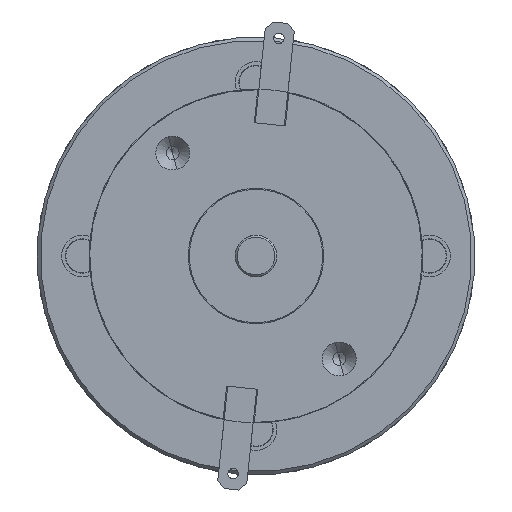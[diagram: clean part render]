
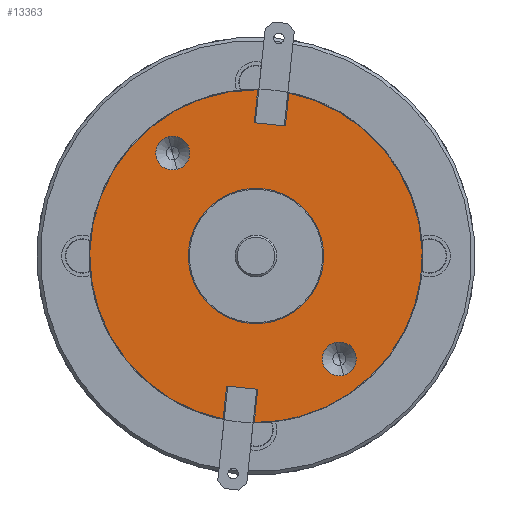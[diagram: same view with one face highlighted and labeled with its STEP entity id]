
A CAD part, left-side view. The second image highlights one B-rep face of the part: STEP entity #13363.
In plain terms, the highlighted planar face has unit normal (-1, 0, 0) as drawn and (1, 0, 0) by its records, which use the part's own axes.
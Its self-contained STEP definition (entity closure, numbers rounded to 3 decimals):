
#22 = EDGE_CURVE ( 'NONE', #15455, #19507, #183, .T. ) ;
#183 = LINE ( 'NONE', #7486, #15529 ) ;
#549 = VERTEX_POINT ( 'NONE', #19037 ) ;
#780 = ORIENTED_EDGE ( 'NONE', *, *, #14690, .F. ) ;
#1062 = VERTEX_POINT ( 'NONE', #24954 ) ;
#1117 = DIRECTION ( 'NONE',  ( 0., 0., 1. ) ) ;
#1390 = DIRECTION ( 'NONE',  ( 0., 0., 1. ) ) ;
#1751 = DIRECTION ( 'NONE',  ( -1., 0., 0. ) ) ;
#1846 = ORIENTED_EDGE ( 'NONE', *, *, #6773, .T. ) ;
#2076 = LINE ( 'NONE', #7467, #22735 ) ;
#2984 = CIRCLE ( 'NONE', #22455, 6.5 ) ;
#3422 = CARTESIAN_POINT ( 'NONE',  ( 82.1, 0., 15.95 ) ) ;
#3461 = ORIENTED_EDGE ( 'NONE', *, *, #17270, .F. ) ;
#3782 = VERTEX_POINT ( 'NONE', #5584 ) ;
#4031 = FACE_BOUND ( 'NONE', #19988, .T. ) ;
#4375 = CARTESIAN_POINT ( 'NONE',  ( 82.1, 5.166, -13.227 ) ) ;
#4650 = ORIENTED_EDGE ( 'NONE', *, *, #6117, .T. ) ;
#4755 = VERTEX_POINT ( 'NONE', #23869 ) ;
#4860 = AXIS2_PLACEMENT_3D ( 'NONE', #19985, #7960, #21999 ) ;
#5102 = EDGE_LOOP ( 'NONE', ( #1846, #15276 ) ) ;
#5323 = CARTESIAN_POINT ( 'NONE',  ( 82.1, 3.449, 4.799 ) ) ;
#5417 = LINE ( 'NONE', #20633, #10087 ) ;
#5484 = DIRECTION ( 'NONE',  ( -1., 0., 0. ) ) ;
#5563 = CARTESIAN_POINT ( 'NONE',  ( 82.1, -3.151, -12.394 ) ) ;
#5584 = CARTESIAN_POINT ( 'NONE',  ( 82.1, -5.166, 13.227 ) ) ;
#5843 = DIRECTION ( 'NONE',  ( -1., 0., 0. ) ) ;
#5950 = ORIENTED_EDGE ( 'NONE', *, *, #8727, .T. ) ;
#6117 = EDGE_CURVE ( 'NONE', #22023, #10438, #19720, .T. ) ;
#6120 = CARTESIAN_POINT ( 'NONE',  ( 82.1, -5.166, 11.602 ) ) ;
#6357 = EDGE_CURVE ( 'NONE', #1062, #3782, #17514, .T. ) ;
#6416 = DIRECTION ( 'NONE',  ( 0., 0., 1. ) ) ;
#6613 = CARTESIAN_POINT ( 'NONE',  ( 82.1, 0., 0. ) ) ;
#6773 = EDGE_CURVE ( 'NONE', #19842, #15697, #15927, .T. ) ;
#7467 = CARTESIAN_POINT ( 'NONE',  ( 82.1, -7.109, -14.334 ) ) ;
#7486 = CARTESIAN_POINT ( 'NONE',  ( 82.1, 0.648, 5.874 ) ) ;
#7960 = DIRECTION ( 'NONE',  ( -1., 0., 0. ) ) ;
#8183 = DIRECTION ( 'NONE',  ( -1., 0., 0. ) ) ;
#8282 = DIRECTION ( 'NONE',  ( -1., 0., 0. ) ) ;
#8293 = LINE ( 'NONE', #20556, #13637 ) ;
#8462 = AXIS2_PLACEMENT_3D ( 'NONE', #20215, #8183, #22239 ) ;
#8480 = EDGE_LOOP ( 'NONE', ( #5950, #4650 ) ) ;
#8525 = VECTOR ( 'NONE', #19429, 1000. ) ;
#8616 = DIRECTION ( 'NONE',  ( 0., 0., 1. ) ) ;
#8727 = EDGE_CURVE ( 'NONE', #10438, #22023, #2984, .T. ) ;
#8774 = CARTESIAN_POINT ( 'NONE',  ( 82.1, -5.166, 11.602 ) ) ;
#9132 = CARTESIAN_POINT ( 'NONE',  ( 82.1, -4.29, -15.362 ) ) ;
#9170 = CARTESIAN_POINT ( 'NONE',  ( 82.1, -7.091, -14.287 ) ) ;
#9366 = CIRCLE ( 'NONE', #21688, 1.625 ) ;
#9655 = CARTESIAN_POINT ( 'NONE',  ( 82.1, 0., 0. ) ) ;
#9673 = CARTESIAN_POINT ( 'NONE',  ( 82.1, 7.091, 14.287 ) ) ;
#10087 = VECTOR ( 'NONE', #18637, 1000. ) ;
#10438 = VERTEX_POINT ( 'NONE', #13307 ) ;
#10537 = ORIENTED_EDGE ( 'NONE', *, *, #23925, .T. ) ;
#10544 = DIRECTION ( 'NONE',  ( 0., 0.358, 0.934 ) ) ;
#10548 = DIRECTION ( 'NONE',  ( 0., 0., 1. ) ) ;
#10595 = CARTESIAN_POINT ( 'NONE',  ( 82.1, 3.151, 12.394 ) ) ;
#10801 = DIRECTION ( 'NONE',  ( 0., 0., 1. ) ) ;
#10979 = CARTESIAN_POINT ( 'NONE',  ( 82.1, 0., -6.5 ) ) ;
#12153 = ORIENTED_EDGE ( 'NONE', *, *, #17121, .F. ) ;
#13137 = AXIS2_PLACEMENT_3D ( 'NONE', #9655, #5484, #6416 ) ;
#13199 = VERTEX_POINT ( 'NONE', #9132 ) ;
#13307 = CARTESIAN_POINT ( 'NONE',  ( 82.1, 0., 6.5 ) ) ;
#13363 = ADVANCED_FACE ( 'NONE', ( #4031, #14641, #25354, #24709 ), #17680, .F. ) ;
#13500 = ORIENTED_EDGE ( 'NONE', *, *, #24286, .F. ) ;
#13637 = VECTOR ( 'NONE', #10544, 1000. ) ;
#13672 = CARTESIAN_POINT ( 'NONE',  ( 82.1, 15.95, 0. ) ) ;
#13754 = ORIENTED_EDGE ( 'NONE', *, *, #22, .T. ) ;
#13859 = AXIS2_PLACEMENT_3D ( 'NONE', #6613, #20646, #8616 ) ;
#14332 = AXIS2_PLACEMENT_3D ( 'NONE', #18539, #16509, #1117 ) ;
#14641 = FACE_BOUND ( 'NONE', #5102, .T. ) ;
#14690 = EDGE_CURVE ( 'NONE', #23157, #25572, #8293, .T. ) ;
#14981 = EDGE_CURVE ( 'NONE', #4755, #16853, #2076, .T. ) ;
#15276 = ORIENTED_EDGE ( 'NONE', *, *, #24980, .T. ) ;
#15455 = VERTEX_POINT ( 'NONE', #10595 ) ;
#15529 = VECTOR ( 'NONE', #19350, 1000. ) ;
#15697 = VERTEX_POINT ( 'NONE', #21257 ) ;
#15711 = DIRECTION ( 'NONE',  ( 0., 0., 1. ) ) ;
#15927 = CIRCLE ( 'NONE', #14332, 1.625 ) ;
#16263 = CARTESIAN_POINT ( 'NONE',  ( 82.1, 0., 0. ) ) ;
#16509 = DIRECTION ( 'NONE',  ( -1., 0., 0. ) ) ;
#16513 = EDGE_LOOP ( 'NONE', ( #21639, #13754, #12153, #18773, #16519, #13500, #10537, #3461, #780 ) ) ;
#16519 = ORIENTED_EDGE ( 'NONE', *, *, #14981, .F. ) ;
#16704 = AXIS2_PLACEMENT_3D ( 'NONE', #6120, #5843, #10548 ) ;
#16853 = VERTEX_POINT ( 'NONE', #9170 ) ;
#16919 = VERTEX_POINT ( 'NONE', #3422 ) ;
#17121 = EDGE_CURVE ( 'NONE', #16919, #19507, #20730, .T. ) ;
#17270 = EDGE_CURVE ( 'NONE', #25572, #13199, #18225, .T. ) ;
#17514 = CIRCLE ( 'NONE', #16704, 1.625 ) ;
#17663 = VECTOR ( 'NONE', #23621, 1000. ) ;
#17680 = PLANE ( 'NONE',  #19190 ) ;
#18225 = CIRCLE ( 'NONE', #13859, 15.95 ) ;
#18539 = CARTESIAN_POINT ( 'NONE',  ( 82.1, 5.166, -11.602 ) ) ;
#18637 = DIRECTION ( 'NONE',  ( 0., 0.934, -0.358 ) ) ;
#18773 = ORIENTED_EDGE ( 'NONE', *, *, #23503, .F. ) ;
#19037 = CARTESIAN_POINT ( 'NONE',  ( 82.1, -3.151, -12.394 ) ) ;
#19099 = CARTESIAN_POINT ( 'NONE',  ( 82.1, 4.29, 15.362 ) ) ;
#19190 = AXIS2_PLACEMENT_3D ( 'NONE', #13672, #1751, #15711 ) ;
#19223 = LINE ( 'NONE', #5323, #8525 ) ;
#19350 = DIRECTION ( 'NONE',  ( 0., 0.358, 0.934 ) ) ;
#19429 = DIRECTION ( 'NONE',  ( 0., -0.358, -0.934 ) ) ;
#19507 = VERTEX_POINT ( 'NONE', #19099 ) ;
#19720 = CIRCLE ( 'NONE', #13137, 6.5 ) ;
#19832 = ORIENTED_EDGE ( 'NONE', *, *, #6357, .T. ) ;
#19842 = VERTEX_POINT ( 'NONE', #4375 ) ;
#19979 = EDGE_CURVE ( 'NONE', #3782, #1062, #9366, .T. ) ;
#19985 = CARTESIAN_POINT ( 'NONE',  ( 82.1, 5.166, -11.602 ) ) ;
#19988 = EDGE_LOOP ( 'NONE', ( #19832, #23970 ) ) ;
#20215 = CARTESIAN_POINT ( 'NONE',  ( 82.1, 0., 0. ) ) ;
#20315 = CARTESIAN_POINT ( 'NONE',  ( 82.1, 0., 0. ) ) ;
#20556 = CARTESIAN_POINT ( 'NONE',  ( 82.1, 7.109, 14.334 ) ) ;
#20633 = CARTESIAN_POINT ( 'NONE',  ( 82.1, 5.952, 11.319 ) ) ;
#20646 = DIRECTION ( 'NONE',  ( -1., 0., 0. ) ) ;
#20730 = CIRCLE ( 'NONE', #8462, 15.95 ) ;
#21257 = CARTESIAN_POINT ( 'NONE',  ( 82.1, 5.166, -9.977 ) ) ;
#21639 = ORIENTED_EDGE ( 'NONE', *, *, #24135, .F. ) ;
#21688 = AXIS2_PLACEMENT_3D ( 'NONE', #8774, #22823, #10801 ) ;
#21832 = CARTESIAN_POINT ( 'NONE',  ( 82.1, 5.952, 11.319 ) ) ;
#21999 = DIRECTION ( 'NONE',  ( 0., 0., 1. ) ) ;
#22023 = VERTEX_POINT ( 'NONE', #10979 ) ;
#22239 = DIRECTION ( 'NONE',  ( 0., 0., 1. ) ) ;
#22346 = DIRECTION ( 'NONE',  ( 0., 0., 1. ) ) ;
#22455 = AXIS2_PLACEMENT_3D ( 'NONE', #16263, #23347, #1390 ) ;
#22735 = VECTOR ( 'NONE', #23533, 1000. ) ;
#22823 = DIRECTION ( 'NONE',  ( -1., 0., 0. ) ) ;
#22961 = LINE ( 'NONE', #5563, #17663 ) ;
#23157 = VERTEX_POINT ( 'NONE', #21832 ) ;
#23320 = CIRCLE ( 'NONE', #25826, 15.95 ) ;
#23347 = DIRECTION ( 'NONE',  ( -1., 0., 0. ) ) ;
#23503 = EDGE_CURVE ( 'NONE', #16853, #16919, #23320, .T. ) ;
#23533 = DIRECTION ( 'NONE',  ( 0., -0.358, -0.934 ) ) ;
#23621 = DIRECTION ( 'NONE',  ( 0., -0.934, 0.358 ) ) ;
#23869 = CARTESIAN_POINT ( 'NONE',  ( 82.1, -5.952, -11.319 ) ) ;
#23925 = EDGE_CURVE ( 'NONE', #549, #13199, #19223, .T. ) ;
#23970 = ORIENTED_EDGE ( 'NONE', *, *, #19979, .T. ) ;
#24135 = EDGE_CURVE ( 'NONE', #15455, #23157, #5417, .T. ) ;
#24286 = EDGE_CURVE ( 'NONE', #549, #4755, #22961, .T. ) ;
#24529 = CIRCLE ( 'NONE', #4860, 1.625 ) ;
#24709 = FACE_BOUND ( 'NONE', #8480, .T. ) ;
#24954 = CARTESIAN_POINT ( 'NONE',  ( 82.1, -5.166, 9.977 ) ) ;
#24980 = EDGE_CURVE ( 'NONE', #15697, #19842, #24529, .T. ) ;
#25354 = FACE_OUTER_BOUND ( 'NONE', #16513, .T. ) ;
#25572 = VERTEX_POINT ( 'NONE', #9673 ) ;
#25826 = AXIS2_PLACEMENT_3D ( 'NONE', #20315, #8282, #22346 ) ;
